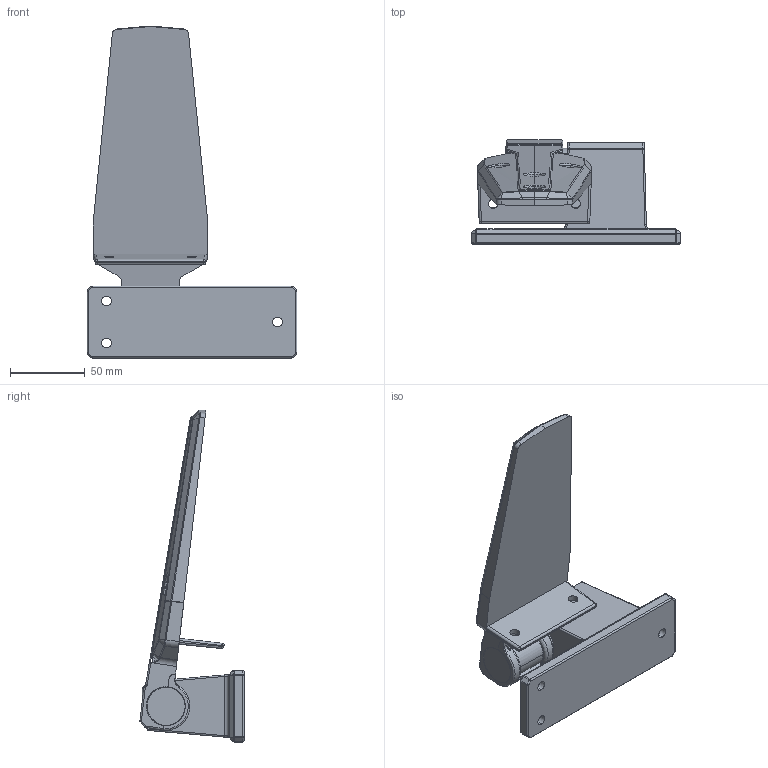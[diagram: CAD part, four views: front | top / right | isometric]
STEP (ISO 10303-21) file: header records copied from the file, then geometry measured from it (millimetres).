
FILE_DESCRIPTION (( 'STEP AP203' ), '1' );
FILE_NAME ('KH-703(W) STEP.STEP', '2022-07-21T05:48:44', ( '' ), ( '' ), 'SwSTEP 2.0', 'SolidWorks 2011', '' );
FILE_SCHEMA (( 'CONFIG_CONTROL_DESIGN' ));
Length unit declared in the file: millimetre
Products named in the file (2): BASE_1-1; KH-703(W) STEP
Assembly tree (1 placements, depth 2):
  KH-703(W) STEP
    BASE_1-1
Bounding box: 140 x 69.43 x 221.42 mm (x, y, z)
Volume: 348790.1 mm3; surface area: 70079.2 mm2
Topology: 1 solids, 9 shells, 619 faces, 1472 edges, 857 vertices
Faces by surface type: bspline 251, cylinder 165, plane 132, sphere 40, cone 29, torus 2
Entity records: 65672 total; most frequent: CARTESIAN_POINT 53792, ORIENTED_EDGE 2904, DIRECTION 1759, EDGE_CURVE 1452, VERTEX_POINT 855, AXIS2_PLACEMENT_3D 671, EDGE_LOOP 635, FACE_OUTER_BOUND 619
